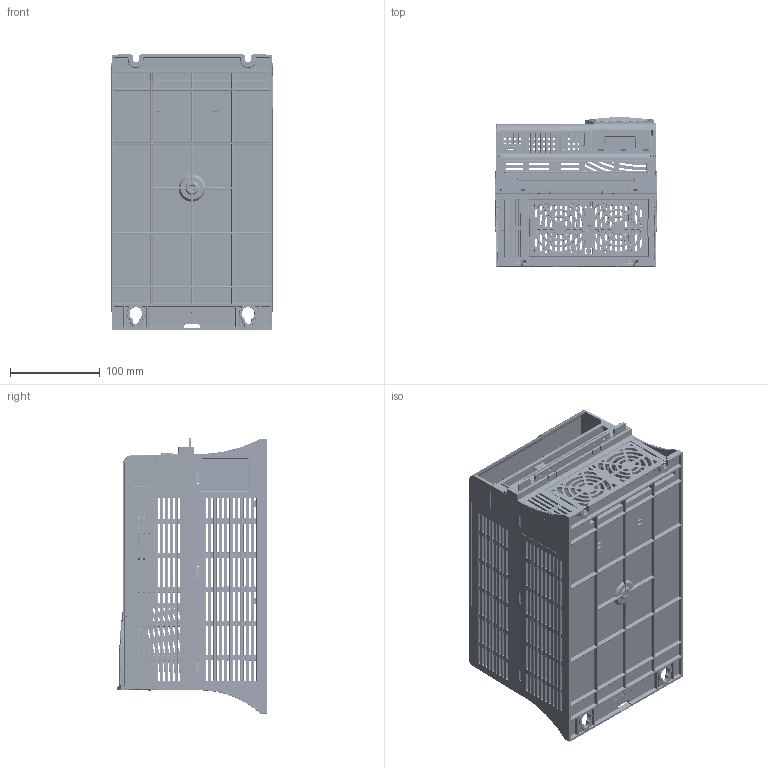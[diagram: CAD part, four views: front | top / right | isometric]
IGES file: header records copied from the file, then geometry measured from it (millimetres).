
Start section: SolidWorks IGES file using analytic representation for surfaces
Global section: file name: Q:\GROUPS\BR_SC_JGS_WAU_DESENVOLVIMENTO_PRODUTOS\Arquivos Fontes\Desenvolvimento Mecanico\Arquivos Site WEG\CFW500_501\Mec D\IP20\CFW500 MEC D IP20.IGS; native system: SolidWorks 2014; preprocessor: SolidWorks 2014; author: jonasd; date: 150520.163825; units: millimetre
Bounding box: 180 x 166.47 x 306.6 mm (x, y, z)
Surface area: 634962.6 mm2 (no closed solid volume)
Topology: 0 solids, 0 shells, 15447 faces, 117387 edges, 116426 vertices
Faces by surface type: bspline 8779, revolution 6668
